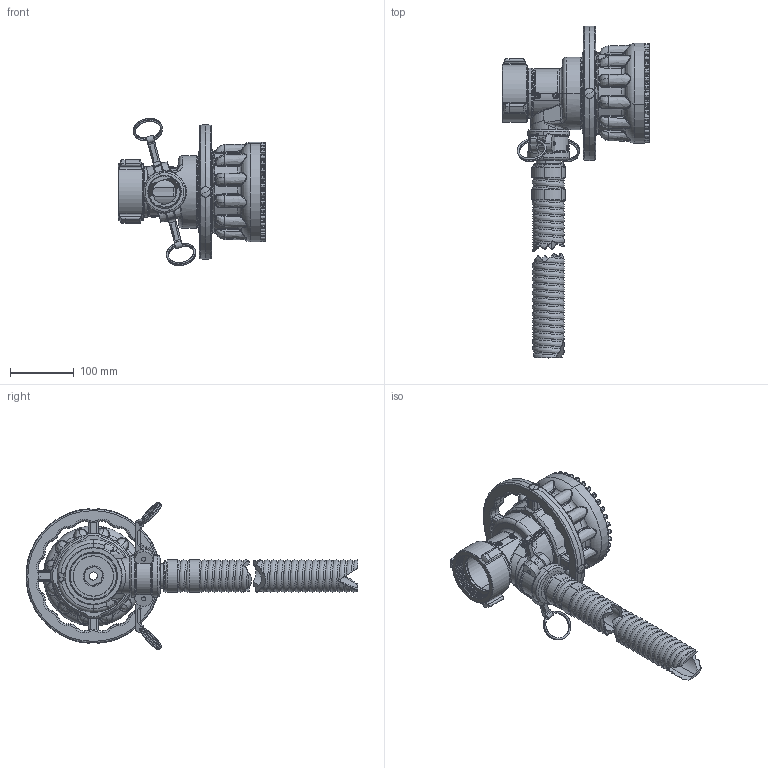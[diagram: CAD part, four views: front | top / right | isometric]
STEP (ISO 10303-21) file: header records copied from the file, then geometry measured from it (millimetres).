
FILE_DESCRIPTION (( 'STEP AP203' ), '1' );
FILE_NAME ('ZMF22A.STEP', '2016-12-01T21:02:39', ( '' ), ( '' ), 'SwSTEP 2.0', 'SolidWorks 2016', '' );
FILE_SCHEMA (( 'CONFIG_CONTROL_DESIGN' ));
Length unit declared in the file: inch
Products named in the file (1): ZMF22A
Bounding box: 232.35 x 522.54 x 231.77 mm (x, y, z)
Surface area: 418958.5 mm2 (no closed solid volume)
Topology: 0 solids, 41 shells, 1966 faces, 6019 edges, 3840 vertices
Faces by surface type: cylinder 612, bspline 564, plane 361, torus 254, cone 151, sphere 24
Entity records: 574279 total; most frequent: CARTESIAN_POINT 528200, ORIENTED_EDGE 10305, DIRECTION 8047, EDGE_CURVE 6008, VERTEX_POINT 3840, AXIS2_PLACEMENT_3D 3266, B_SPLINE_CURVE_WITH_KNOTS 2125, EDGE_LOOP 2036
